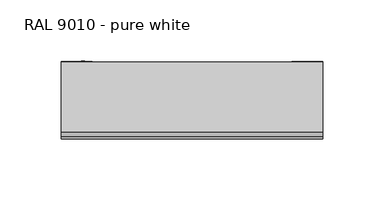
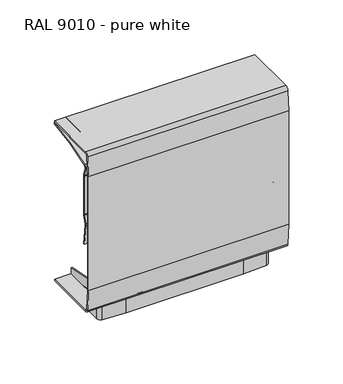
"""IFC4 building model written with IfcOpenShell, lengths in millimetres: cable carrier fitting geometry, Electrical_Installations_Hager_GBD-T-Piece-Curved : RAL 9010 - pure white."""

from ifc_helpers import new_model, si_unit, point, frame, frame_2d, origin, place, context, project, spatial, polyline, circle_curve, trimmed, segment, composite_curve, outline, extrude, source, transform, mapped, element, save
from ifc_brep_helpers import plane_surface, cylinder_surface, revolved_surface, advanced_brep


def ral_9010_pure_white_77e8784b(model_context):
    return source(origin(), model_context, "Body", "SolidModel", [
        extrude(outline(composite_curve([segment(trimmed(circle_curve(frame_2d((125.4567542, 53.884668)), 216.1549456), [point((-88.8940479, 26.0154353))], [point((-76.2372438, -23.8487975))], True, "CARTESIAN"), True, "CONTINUOUS"), segment(trimmed(circle_curve(frame_2d((-72.9488978, -22.5814592)), 3.5241121), [point((-76.2372438, -23.8487975))], [point((-71.8598873, -25.933089))], True, "CARTESIAN"), True, "CONTINUOUS"), segment(polyline([(-71.8598873, -25.933089), (-63.5928843, -23.2469769)]), True, "CONTINUOUS"), segment(trimmed(circle_curve(frame_2d((-62.3456501, -27.085569)), 4.0361346), [point((-63.5928843, -23.2469769))], [point((-62.3456501, -23.0494344))], False, "CARTESIAN"), True, "CONTINUOUS"), segment(polyline([(-62.3456501, -23.0494344), (-49.1940479, -23.0494344), (-49.1940479, -24.8494466)]), True, "CONTINUOUS"), segment(trimmed(circle_curve(frame_2d((-49.1785266, -34.7494344)), 9.9), [point((-49.1940479, -24.8494466))], [point((-52.2377949, -25.3339749))], True, "CARTESIAN"), True, "CONTINUOUS"), segment(polyline([(-52.2377949, -25.3339749), (-59.9970362, -27.8551052)]), True, "CONTINUOUS"), segment(trimmed(circle_curve(frame_2d((-63.1181078, -18.2494344)), 10.1), [point((-59.9970362, -27.8551052))], [point((-63.1181078, -28.3494344))], False, "CARTESIAN"), True, "CONTINUOUS"), segment(polyline([(-63.1181078, -28.3494344), (-64.7961909, -28.3494344)]), True, "CONTINUOUS"), segment(trimmed(circle_curve(frame_2d((-64.7961909, 71.6594911)), 100.0089255), [point((-64.7961909, -28.3494344))], [point((-86.4619058, -25.9744271))], False, "CARTESIAN"), True, "CONTINUOUS"), segment(trimmed(circle_curve(frame_2d((-85.7892984, -22.9434033)), 3.1047554), [point((-86.4619058, -25.9744271))], [point((-88.8940479, -22.9494344))], False, "CARTESIAN"), True, "CONTINUOUS"), segment(polyline([(-88.8940479, -22.9494344), (-88.8940479, 26.0154353)]), True, "CONTINUOUS")], self_intersect=False)), frame((0.0, 0.0, -95.7146752), z_axis=(0.0, 0.0, 1.0), x_axis=(1.0, 0.0, 0.0)), (0.0, 0.0, 1.0), 2.5189471),
        extrude(outline(composite_curve([segment(trimmed(circle_curve(frame_2d((-24.065426, -34.1134519)), 9.9), [point((-21.0061577, -24.6979923))], [point((-24.2565479, -24.2152969))], True, "CARTESIAN"), True, "CONTINUOUS"), segment(polyline([(-24.2565479, -24.2152969), (-24.2565479, -23.0494344), (-18.5077337, -23.0494344)]), True, "CONTINUOUS"), segment(trimmed(circle_curve(frame_2d((-18.5077337, -26.058164)), 3.0087296), [point((-18.5077337, -23.0494344))], [point((-17.5779851, -23.1966921))], False, "CARTESIAN"), True, "CONTINUOUS"), segment(polyline([(-17.5779851, -23.1966921), (-9.4759936, -25.8291887)]), True, "CONTINUOUS"), segment(trimmed(circle_curve(frame_2d((-8.1612952, -21.7829633)), 4.2544532), [point((-9.4759936, -25.8291887))], [point((-7.8063067, -26.0225806))], True, "CARTESIAN"), True, "CONTINUOUS"), segment(trimmed(circle_curve(frame_2d((-23.172832, 211.2398376)), 237.7595113), [point((-7.8063067, -26.0225806))], [point((15.276584, -23.3901426))], True, "CARTESIAN"), True, "CONTINUOUS"), segment(trimmed(circle_curve(frame_2d((9.8841599, -19.5646179)), 6.6115715), [point((15.276584, -23.3901426))], [point((11.1999265, -26.0439416))], False, "CARTESIAN"), True, "CONTINUOUS"), segment(trimmed(circle_curve(frame_2d((-8.6288951, 71.6005389)), 99.6374766), [point((11.1999265, -26.0439416))], [point((-8.654405, -28.0369344))], False, "CARTESIAN"), True, "CONTINUOUS"), segment(trimmed(circle_curve(frame_2d((-8.6508881, -14.3006806)), 13.7362542), [point((-8.654405, -28.0369344))], [point((-13.7469656, -27.0566468))], False, "CARTESIAN"), True, "CONTINUOUS"), segment(polyline([(-13.7469656, -27.0566468), (-21.0061577, -24.6979923)]), True, "CONTINUOUS")], self_intersect=False)), frame((0.0, 0.0, -95.7146752), z_axis=(0.0, 0.0, 1.0), x_axis=(1.0, 0.0, 0.0)), (0.0, 0.0, 1.0), 2.5189471),
        extrude(outline(composite_curve([segment(trimmed(circle_curve(frame_2d((125.6976818, 53.9483074)), 215.0549456), [point((-87.5394944, 26.0460443))], [point((-74.9699071, -23.3895771))], True, "CARTESIAN"), True, "CONTINUOUS"), segment(trimmed(circle_curve(frame_2d((-72.7079701, -22.5178198)), 2.4241121), [point((-74.9699071, -23.3895771))], [point((-71.9588783, -24.8232874))], True, "CARTESIAN"), True, "CONTINUOUS"), segment(polyline([(-71.9588783, -24.8232874), (-63.8877372, -22.2008147)]), True, "CONTINUOUS"), segment(trimmed(circle_curve(frame_2d((-62.3005843, -27.085569)), 5.1361346), [point((-63.8877372, -22.2008147))], [point((-62.3005843, -21.9494344))], False, "CARTESIAN"), True, "CONTINUOUS"), segment(polyline([(-62.3005843, -21.9494344), (-18.2253021, -21.9494344)]), True, "CONTINUOUS"), segment(trimmed(circle_curve(frame_2d((-18.2253021, -26.058164)), 4.1087296), [point((-18.2253021, -21.9494344))], [point((-16.9556348, -22.1505299))], False, "CARTESIAN"), True, "CONTINUOUS"), segment(polyline([(-16.9556348, -22.1505299), (-8.8536433, -24.7830266)]), True, "CONTINUOUS"), segment(trimmed(circle_curve(frame_2d((-7.8788637, -21.7829633)), 3.1544532), [point((-8.8536433, -24.7830266))], [point((-7.6060817, -24.9255999))], True, "CARTESIAN"), True, "CONTINUOUS"), segment(trimmed(circle_curve(frame_2d((-22.8904005, 211.2398376)), 236.6595113), [point((-7.6060817, -24.9255999))], [point((15.3821337, -22.3044567))], True, "CARTESIAN"), True, "CONTINUOUS"), segment(polyline([(15.3821337, -22.3044567), (15.3821337, -23.4190602)]), True, "CONTINUOUS"), segment(trimmed(circle_curve(frame_2d((-22.8904005, 211.2398376)), 237.7595113), [point((15.3821337, -23.4190602))], [point((-7.5238751, -26.0225806))], False, "CARTESIAN"), True, "CONTINUOUS"), segment(trimmed(circle_curve(frame_2d((-7.8788637, -21.7829633)), 4.2544532), [point((-7.5238751, -26.0225806))], [point((-9.193562, -25.8291887))], False, "CARTESIAN"), True, "CONTINUOUS"), segment(polyline([(-9.193562, -25.8291887), (-17.2955535, -23.1966921)]), True, "CONTINUOUS"), segment(trimmed(circle_curve(frame_2d((-18.2253021, -26.058164)), 3.0087296), [point((-17.2955535, -23.1966921))], [point((-18.2253021, -23.0494344))], True, "CARTESIAN"), True, "CONTINUOUS"), segment(polyline([(-18.2253021, -23.0494344), (-62.4055647, -23.0494344)]), True, "CONTINUOUS"), segment(trimmed(circle_curve(frame_2d((-62.4055647, -27.085569)), 4.0361346), [point((-62.4055647, -23.0494344))], [point((-63.6527989, -23.2469769))], True, "CARTESIAN"), True, "CONTINUOUS"), segment(polyline([(-63.6527989, -23.2469769), (-71.7239401, -25.8694496)]), True, "CONTINUOUS"), segment(trimmed(circle_curve(frame_2d((-72.8129506, -22.5178198)), 3.5241121), [point((-71.7239401, -25.8694496))], [point((-76.1012966, -23.7851582))], False, "CARTESIAN"), True, "CONTINUOUS"), segment(trimmed(circle_curve(frame_2d((125.5927014, 53.9483074)), 216.1549456), [point((-76.1012966, -23.7851582))], [point((-88.7538036, 26.0460443))], False, "CARTESIAN"), True, "CONTINUOUS"), segment(polyline([(-88.7538036, 26.0460443), (-87.5394944, 26.0460443)]), True, "CONTINUOUS")], self_intersect=False)), frame((0.0, 0.0, -107.0), z_axis=(0.0, 0.0, 1.0), x_axis=(1.0, 0.0, 0.0)), (0.0, 0.0, 1.0), 25.265503),
        extrude(outline(composite_curve([segment(polyline([(-21.0121095, -24.6979923), (-13.7529174, -27.0566468)]), True, "CONTINUOUS"), segment(trimmed(circle_curve(frame_2d((-8.6568399, -14.3006806)), 13.7362542), [point((-13.7529174, -27.0566468))], [point((-8.6603567, -28.0369344))], True, "CARTESIAN"), True, "CONTINUOUS"), segment(trimmed(circle_curve(frame_2d((-8.6348469, 71.6005389)), 99.6374766), [point((-8.6603567, -28.0369344))], [point((11.1939748, -26.0439416))], True, "CARTESIAN"), True, "CONTINUOUS"), segment(trimmed(circle_curve(frame_2d((9.8782081, -19.5646179)), 6.6115715), [point((11.1939748, -26.0439416))], [point((16.0908939, -21.8263458))], True, "CARTESIAN"), True, "CONTINUOUS"), segment(trimmed(circle_curve(frame_2d((16.1602092, -22.5742838)), 0.7511431), [point((16.0908939, -21.8263458))], [point((16.90599, -22.4846906))], False, "CARTESIAN"), True, "CONTINUOUS"), segment(trimmed(circle_curve(frame_2d((12.4452347, -23.0205766)), 4.492829), [point((16.90599, -22.4846906))], [point((13.3096417, -27.4294667))], False, "CARTESIAN"), True, "CONTINUOUS"), segment(trimmed(circle_curve(frame_2d((-12.0636273, 101.9863714)), 131.8797253), [point((13.3096417, -27.4294667))], [point((-8.6603567, -29.8494344))], False, "CARTESIAN"), True, "CONTINUOUS"), segment(trimmed(circle_curve(frame_2d((-9.9379151, -17.0167462)), 12.896125), [point((-8.6603567, -29.8494344))], [point((-13.9230369, -29.28169))], False, "CARTESIAN"), True, "CONTINUOUS"), segment(polyline([(-13.9230369, -29.28169), (-21.6822782, -26.7605597)]), True, "CONTINUOUS"), segment(trimmed(circle_curve(frame_2d((-24.278021, -34.7494344)), 8.4), [point((-21.6822782, -26.7605597))], [point((-24.2624997, -26.3494487))], True, "CARTESIAN"), True, "CONTINUOUS"), segment(polyline([(-24.2624997, -26.3494487), (-24.2624997, -24.2152969)]), True, "CONTINUOUS"), segment(trimmed(circle_curve(frame_2d((-24.0713777, -34.1134519)), 9.9), [point((-24.2624997, -24.2152969))], [point((-21.0121095, -24.6979923))], False, "CARTESIAN"), True, "CONTINUOUS")], self_intersect=False)), frame((0.0, 0.0, -95.0228804), z_axis=(0.0, 0.0, 1.0), x_axis=(1.0, 0.0, 0.0)), (0.0, 0.0, 1.0), 1.0),
        extrude(outline(composite_curve([segment(trimmed(circle_curve(frame_2d((-49.1844784, -34.7494344)), 9.9), [point((-52.2437466, -25.3339749))], [point((-49.1999997, -24.8494466))], False, "CARTESIAN"), True, "CONTINUOUS"), segment(polyline([(-49.1999997, -24.8494466), (-49.1999997, -26.3715745)]), True, "CONTINUOUS"), segment(trimmed(circle_curve(frame_2d((-49.8094784, -34.7494344)), 8.4), [point((-49.1999997, -26.3715745))], [point((-52.4052211, -26.7605597))], True, "CARTESIAN"), True, "CONTINUOUS"), segment(polyline([(-52.4052211, -26.7605597), (-60.1644624, -29.28169)]), True, "CONTINUOUS"), segment(trimmed(circle_curve(frame_2d((-63.7490596, -18.2494344)), 11.6), [point((-60.1644624, -29.28169))], [point((-63.7490596, -29.8494344))], False, "CARTESIAN"), True, "CONTINUOUS"), segment(polyline([(-63.7490596, -29.8494344), (-64.8021426, -29.8494344)]), True, "CONTINUOUS"), segment(trimmed(circle_curve(frame_2d((-64.8021426, 71.9307221)), 101.7801565), [point((-64.8021426, -29.8494344))], [point((-86.794206, -27.4450768))], False, "CARTESIAN"), True, "CONTINUOUS"), segment(trimmed(circle_curve(frame_2d((-85.8003378, -22.9540726)), 4.5996622), [point((-86.794206, -27.4450768))], [point((-90.4, -22.9540726))], False, "CARTESIAN"), True, "CONTINUOUS"), segment(polyline([(-90.4, -22.9540726), (-90.4, 26.0460443), (-88.8999997, 26.0460443), (-88.8999997, -22.9494344)]), True, "CONTINUOUS"), segment(trimmed(circle_curve(frame_2d((-85.7952501, -22.9434033)), 3.1047554), [point((-88.8999997, -22.9494344))], [point((-86.4678576, -25.9744271))], True, "CARTESIAN"), True, "CONTINUOUS"), segment(trimmed(circle_curve(frame_2d((-64.8021426, 71.6594911)), 100.0089255), [point((-86.4678576, -25.9744271))], [point((-64.8021426, -28.3494344))], True, "CARTESIAN"), True, "CONTINUOUS"), segment(polyline([(-64.8021426, -28.3494344), (-63.1240596, -28.3494344)]), True, "CONTINUOUS"), segment(trimmed(circle_curve(frame_2d((-63.1240596, -18.2494344)), 10.1), [point((-63.1240596, -28.3494344))], [point((-60.0029879, -27.8551052))], True, "CARTESIAN"), True, "CONTINUOUS"), segment(polyline([(-60.0029879, -27.8551052), (-52.2437466, -25.3339749)]), True, "CONTINUOUS")], self_intersect=False)), frame((0.0, 0.0, -95.0228804), z_axis=(0.0, 0.0, 1.0), x_axis=(1.0, 0.0, 0.0)), (0.0, 0.0, 1.0), 1.0),
        extrude(outline(composite_curve([segment(trimmed(circle_curve(frame_2d((47.1435251, -125.9773684)), 216.1549456), [point((25.4509328, 89.0863243))], [point((-30.5899404, 75.7166296))], True, "CARTESIAN"), True, "CONTINUOUS"), segment(trimmed(circle_curve(frame_2d((-29.3226021, 72.4282836)), 3.5241121), [point((-30.5899404, 75.7166296))], [point((-32.6742319, 71.3392731))], True, "CARTESIAN"), True, "CONTINUOUS"), segment(polyline([(-32.6742319, 71.3392731), (-30.0517591, 63.2681319)]), True, "CONTINUOUS"), segment(trimmed(circle_curve(frame_2d((-33.8903513, 62.0208977)), 4.0361346), [point((-30.0517591, 63.2681319))], [point((-29.8542167, 62.0208977))], False, "CARTESIAN"), True, "CONTINUOUS"), segment(polyline([(-29.8542167, 62.0208977), (-29.8542167, 49.3863243), (-31.6542288, 49.3863243)]), True, "CONTINUOUS"), segment(trimmed(circle_curve(frame_2d((-41.5542167, 49.3708031)), 9.9), [point((-31.6542288, 49.3863243))], [point((-32.1387571, 52.4300713))], True, "CARTESIAN"), True, "CONTINUOUS"), segment(polyline([(-32.1387571, 52.4300713), (-34.6598875, 60.1893126)]), True, "CONTINUOUS"), segment(trimmed(circle_curve(frame_2d((-25.0542167, 63.3103842)), 10.1), [point((-34.6598875, 60.1893126))], [point((-35.1542167, 63.3103842))], False, "CARTESIAN"), True, "CONTINUOUS"), segment(polyline([(-35.1542167, 63.3103842), (-35.1542167, 64.9884673)]), True, "CONTINUOUS"), segment(trimmed(circle_curve(frame_2d((64.8547088, 64.9884673)), 100.0089255), [point((-35.1542167, 64.9884673))], [point((-32.7792093, 86.6541822))], False, "CARTESIAN"), True, "CONTINUOUS"), segment(trimmed(circle_curve(frame_2d((-29.7481855, 85.9815748)), 3.1047554), [point((-32.7792093, 86.6541822))], [point((-29.7542167, 89.0863243))], False, "CARTESIAN"), True, "CONTINUOUS"), segment(polyline([(-29.7542167, 89.0863243), (25.4509328, 89.0863243)]), True, "CONTINUOUS")], self_intersect=False)), frame((92.9132965, 0.0, 0.0), z_axis=(1.0, 0.0, 0.0), x_axis=(0.0, 1.0, 0.0)), (0.0, 0.0, 1.0), 2.5189471),
        extrude(outline(composite_curve([segment(trimmed(circle_curve(frame_2d((-40.9182341, 24.2577024)), 9.9), [point((-31.5027746, 21.1984341))], [point((-31.0200791, 24.4488243))], True, "CARTESIAN"), True, "CONTINUOUS"), segment(polyline([(-31.0200791, 24.4488243), (-29.8542167, 24.4488243), (-29.8542167, 18.7000101)]), True, "CONTINUOUS"), segment(trimmed(circle_curve(frame_2d((-32.8629463, 18.7000101)), 3.0087296), [point((-29.8542167, 18.7000101))], [point((-30.0014744, 17.7702615))], False, "CARTESIAN"), True, "CONTINUOUS"), segment(polyline([(-30.0014744, 17.7702615), (-32.633971, 9.66827)]), True, "CONTINUOUS"), segment(trimmed(circle_curve(frame_2d((-28.5877455, 8.3535717)), 4.2544532), [point((-32.633971, 9.66827))], [point((-32.8273629, 7.9985831))], True, "CARTESIAN"), True, "CONTINUOUS"), segment(trimmed(circle_curve(frame_2d((204.4350554, 23.3651085)), 237.7595113), [point((-32.8273629, 7.9985831))], [point((-30.1949249, -15.0843076))], True, "CARTESIAN"), True, "CONTINUOUS"), segment(trimmed(circle_curve(frame_2d((-26.3694002, -9.6918834)), 6.6115715), [point((-30.1949249, -15.0843076))], [point((-32.8487238, -11.0076501))], False, "CARTESIAN"), True, "CONTINUOUS"), segment(trimmed(circle_curve(frame_2d((64.7957567, 8.8211715)), 99.6374766), [point((-32.8487238, -11.0076501))], [point((-34.8417167, 8.8466814))], False, "CARTESIAN"), True, "CONTINUOUS"), segment(trimmed(circle_curve(frame_2d((-21.1054629, 8.8431645)), 13.7362542), [point((-34.8417167, 8.8466814))], [point((-33.8614291, 13.9392421))], False, "CARTESIAN"), True, "CONTINUOUS"), segment(polyline([(-33.8614291, 13.9392421), (-31.5027746, 21.1984341)]), True, "CONTINUOUS")], self_intersect=False)), frame((92.9132965, 0.0, 0.0), z_axis=(1.0, 0.0, 0.0), x_axis=(0.0, 1.0, 0.0)), (0.0, 0.0, 1.0), 2.5189471),
        extrude(outline(composite_curve([segment(trimmed(circle_curve(frame_2d((47.1435251, -126.0823488)), 215.0549456), [point((25.441262, 87.8747529))], [point((-30.1943593, 74.5852401))], True, "CARTESIAN"), True, "CONTINUOUS"), segment(trimmed(circle_curve(frame_2d((-29.3226021, 72.3233031)), 2.4241121), [point((-30.1943593, 74.5852401))], [point((-31.6280697, 71.5742113))], True, "CARTESIAN"), True, "CONTINUOUS"), segment(polyline([(-31.6280697, 71.5742113), (-29.005597, 63.5030702)]), True, "CONTINUOUS"), segment(trimmed(circle_curve(frame_2d((-33.8903513, 61.9159173)), 5.1361346), [point((-29.005597, 63.5030702))], [point((-28.7542167, 61.9159173))], False, "CARTESIAN"), True, "CONTINUOUS"), segment(polyline([(-28.7542167, 61.9159173), (-28.7542167, 18.7000101)]), True, "CONTINUOUS"), segment(trimmed(circle_curve(frame_2d((-32.8629463, 18.7000101)), 4.1087296), [point((-28.7542167, 18.7000101))], [point((-28.9553122, 17.4303428))], False, "CARTESIAN"), True, "CONTINUOUS"), segment(polyline([(-28.9553122, 17.4303428), (-31.5878088, 9.3283513)]), True, "CONTINUOUS"), segment(trimmed(circle_curve(frame_2d((-28.5877455, 8.3535717)), 3.1544532), [point((-31.5878088, 9.3283513))], [point((-31.7303822, 8.0807897))], True, "CARTESIAN"), True, "CONTINUOUS"), segment(trimmed(circle_curve(frame_2d((204.4350554, 23.3651085)), 236.6595113), [point((-31.7303822, 8.0807897))], [point((-29.109239, -14.9074257))], True, "CARTESIAN"), True, "CONTINUOUS"), segment(polyline([(-29.109239, -14.9074257), (-30.2238425, -14.9074257)]), True, "CONTINUOUS"), segment(trimmed(circle_curve(frame_2d((204.4350554, 23.3651085)), 237.7595113), [point((-30.2238425, -14.9074257))], [point((-32.8273629, 7.9985831))], False, "CARTESIAN"), True, "CONTINUOUS"), segment(trimmed(circle_curve(frame_2d((-28.5877455, 8.3535717)), 4.2544532), [point((-32.8273629, 7.9985831))], [point((-32.633971, 9.66827))], False, "CARTESIAN"), True, "CONTINUOUS"), segment(polyline([(-32.633971, 9.66827), (-30.0014744, 17.7702615)]), True, "CONTINUOUS"), segment(trimmed(circle_curve(frame_2d((-32.8629463, 18.7000101)), 3.0087296), [point((-30.0014744, 17.7702615))], [point((-29.8542167, 18.7000101))], True, "CARTESIAN"), True, "CONTINUOUS"), segment(polyline([(-29.8542167, 18.7000101), (-29.8542167, 62.0208977)]), True, "CONTINUOUS"), segment(trimmed(circle_curve(frame_2d((-33.8903513, 62.0208977)), 4.0361346), [point((-29.8542167, 62.0208977))], [point((-30.0517591, 63.2681319))], True, "CARTESIAN"), True, "CONTINUOUS"), segment(polyline([(-30.0517591, 63.2681319), (-32.6742319, 71.3392731)]), True, "CONTINUOUS"), segment(trimmed(circle_curve(frame_2d((-29.3226021, 72.4282836)), 3.5241121), [point((-32.6742319, 71.3392731))], [point((-30.5899404, 75.7166296))], False, "CARTESIAN"), True, "CONTINUOUS"), segment(trimmed(circle_curve(frame_2d((47.1435251, -125.9773684)), 216.1549456), [point((-30.5899404, 75.7166296))], [point((25.441262, 89.0853487))], False, "CARTESIAN"), True, "CONTINUOUS"), segment(polyline([(25.441262, 89.0853487), (25.441262, 87.8747529)]), True, "CONTINUOUS")], self_intersect=False)), frame((81.734497, 0.0, 0.0), z_axis=(1.0, 0.0, 0.0), x_axis=(0.0, 1.0, 0.0)), (0.0, 0.0, 1.0), 25.265503),
        extrude(outline(composite_curve([segment(polyline([(-31.5027746, 21.1984341), (-33.8614291, 13.9392421)]), True, "CONTINUOUS"), segment(trimmed(circle_curve(frame_2d((-21.1054629, 8.8431645)), 13.7362542), [point((-33.8614291, 13.9392421))], [point((-34.8417167, 8.8466814))], True, "CARTESIAN"), True, "CONTINUOUS"), segment(trimmed(circle_curve(frame_2d((64.7957567, 8.8211715)), 99.6374766), [point((-34.8417167, 8.8466814))], [point((-32.8487238, -11.0076501))], True, "CARTESIAN"), True, "CONTINUOUS"), segment(trimmed(circle_curve(frame_2d((-26.3694002, -9.6918834)), 6.6115715), [point((-32.8487238, -11.0076501))], [point((-28.6311281, -15.9045692))], True, "CARTESIAN"), True, "CONTINUOUS"), segment(trimmed(circle_curve(frame_2d((-29.3790661, -15.9738846)), 0.7511431), [point((-28.6311281, -15.9045692))], [point((-29.2894729, -16.7196653))], False, "CARTESIAN"), True, "CONTINUOUS"), segment(trimmed(circle_curve(frame_2d((-29.8253588, -12.25891)), 4.492829), [point((-29.2894729, -16.7196653))], [point((-34.234249, -13.123317))], False, "CARTESIAN"), True, "CONTINUOUS"), segment(trimmed(circle_curve(frame_2d((95.1815891, 12.249952)), 131.8797253), [point((-34.234249, -13.123317))], [point((-36.6542167, 8.8466814))], False, "CARTESIAN"), True, "CONTINUOUS"), segment(trimmed(circle_curve(frame_2d((-23.8215285, 10.1242398)), 12.896125), [point((-36.6542167, 8.8466814))], [point((-36.0864722, 14.1093616))], False, "CARTESIAN"), True, "CONTINUOUS"), segment(polyline([(-36.0864722, 14.1093616), (-33.5653419, 21.8686029)]), True, "CONTINUOUS"), segment(trimmed(circle_curve(frame_2d((-41.5542167, 24.4643456)), 8.4), [point((-33.5653419, 21.8686029))], [point((-33.154231, 24.4488243))], True, "CARTESIAN"), True, "CONTINUOUS"), segment(polyline([(-33.154231, 24.4488243), (-31.0200791, 24.4488243)]), True, "CONTINUOUS"), segment(trimmed(circle_curve(frame_2d((-40.9182341, 24.2577024)), 9.9), [point((-31.0200791, 24.4488243))], [point((-31.5027746, 21.1984341))], False, "CARTESIAN"), True, "CONTINUOUS")], self_intersect=False)), frame((93.734497, 0.0, 0.0), z_axis=(1.0, 0.0, 0.0), x_axis=(0.0, 1.0, 0.0)), (0.0, 0.0, 1.0), 1.0),
        extrude(outline(composite_curve([segment(trimmed(circle_curve(frame_2d((-41.5542167, 49.3708031)), 9.9), [point((-32.1387571, 52.4300713))], [point((-31.6542288, 49.3863243))], False, "CARTESIAN"), True, "CONTINUOUS"), segment(polyline([(-31.6542288, 49.3863243), (-33.1763568, 49.3863243)]), True, "CONTINUOUS"), segment(trimmed(circle_curve(frame_2d((-41.5542167, 49.9958031)), 8.4), [point((-33.1763568, 49.3863243))], [point((-33.5653419, 52.5915458))], True, "CARTESIAN"), True, "CONTINUOUS"), segment(polyline([(-33.5653419, 52.5915458), (-36.0864722, 60.3507871)]), True, "CONTINUOUS"), segment(trimmed(circle_curve(frame_2d((-25.0542167, 63.9353842)), 11.6), [point((-36.0864722, 60.3507871))], [point((-36.6542167, 63.9353842))], False, "CARTESIAN"), True, "CONTINUOUS"), segment(polyline([(-36.6542167, 63.9353842), (-36.6542167, 64.9884673)]), True, "CONTINUOUS"), segment(trimmed(circle_curve(frame_2d((65.1259399, 64.9884673)), 101.7801565), [point((-36.6542167, 64.9884673))], [point((-34.2498591, 86.9805307))], False, "CARTESIAN"), True, "CONTINUOUS"), segment(trimmed(circle_curve(frame_2d((-29.7588549, 85.9866625)), 4.5996622), [point((-34.2498591, 86.9805307))], [point((-29.7588549, 90.5863247))], False, "CARTESIAN"), True, "CONTINUOUS"), segment(polyline([(-29.7588549, 90.5863247), (25.4389677, 90.5863247), (25.4389677, 89.0863243), (-29.7542167, 89.0863243)]), True, "CONTINUOUS"), segment(trimmed(circle_curve(frame_2d((-29.7481855, 85.9815748)), 3.1047554), [point((-29.7542167, 89.0863243))], [point((-32.7792093, 86.6541822))], True, "CARTESIAN"), True, "CONTINUOUS"), segment(trimmed(circle_curve(frame_2d((64.8547088, 64.9884673)), 100.0089255), [point((-32.7792093, 86.6541822))], [point((-35.1542167, 64.9884673))], True, "CARTESIAN"), True, "CONTINUOUS"), segment(polyline([(-35.1542167, 64.9884673), (-35.1542167, 63.3103842)]), True, "CONTINUOUS"), segment(trimmed(circle_curve(frame_2d((-25.0542167, 63.3103842)), 10.1), [point((-35.1542167, 63.3103842))], [point((-34.6598875, 60.1893126))], True, "CARTESIAN"), True, "CONTINUOUS"), segment(polyline([(-34.6598875, 60.1893126), (-32.1387571, 52.4300713)]), True, "CONTINUOUS")], self_intersect=False)), frame((93.734497, 0.0, 0.0), z_axis=(1.0, 0.0, 0.0), x_axis=(0.0, 1.0, 0.0)), (0.0, 0.0, 1.0), 1.0),
        extrude(outline(composite_curve([segment(trimmed(circle_curve(frame_2d((47.1435251, -125.9773684)), 216.1549456), [point((25.4509328, 89.0863243))], [point((-30.5899404, 75.7166296))], True, "CARTESIAN"), True, "CONTINUOUS"), segment(trimmed(circle_curve(frame_2d((-29.3226021, 72.4282836)), 3.5241121), [point((-30.5899404, 75.7166296))], [point((-32.6742319, 71.3392731))], True, "CARTESIAN"), True, "CONTINUOUS"), segment(polyline([(-32.6742319, 71.3392731), (-30.0517591, 63.2681319)]), True, "CONTINUOUS"), segment(trimmed(circle_curve(frame_2d((-33.8903513, 62.0208977)), 4.0361346), [point((-30.0517591, 63.2681319))], [point((-29.8542167, 62.0208977))], False, "CARTESIAN"), True, "CONTINUOUS"), segment(polyline([(-29.8542167, 62.0208977), (-29.8542167, 49.3863243), (-31.6542288, 49.3863243)]), True, "CONTINUOUS"), segment(trimmed(circle_curve(frame_2d((-41.5542167, 49.3708031)), 9.9), [point((-31.6542288, 49.3863243))], [point((-32.1387571, 52.4300713))], True, "CARTESIAN"), True, "CONTINUOUS"), segment(polyline([(-32.1387571, 52.4300713), (-34.6598875, 60.1893126)]), True, "CONTINUOUS"), segment(trimmed(circle_curve(frame_2d((-25.0542167, 63.3103842)), 10.1), [point((-34.6598875, 60.1893126))], [point((-35.1542167, 63.3103842))], False, "CARTESIAN"), True, "CONTINUOUS"), segment(polyline([(-35.1542167, 63.3103842), (-35.1542167, 64.9884673)]), True, "CONTINUOUS"), segment(trimmed(circle_curve(frame_2d((64.8547088, 64.9884673)), 100.0089255), [point((-35.1542167, 64.9884673))], [point((-32.7792093, 86.6541822))], False, "CARTESIAN"), True, "CONTINUOUS"), segment(trimmed(circle_curve(frame_2d((-29.7481855, 85.9815748)), 3.1047554), [point((-32.7792093, 86.6541822))], [point((-29.7542167, 89.0863243))], False, "CARTESIAN"), True, "CONTINUOUS"), segment(polyline([(-29.7542167, 89.0863243), (25.4509328, 89.0863243)]), True, "CONTINUOUS")], self_intersect=False)), frame((-95.8212005, 0.0, 0.0), z_axis=(1.0, 0.0, 0.0), x_axis=(0.0, 1.0, 0.0)), (0.0, 0.0, 1.0), 2.5189471),
        extrude(outline(composite_curve([segment(trimmed(circle_curve(frame_2d((-40.9182341, 24.2577024)), 9.9), [point((-31.5027746, 21.1984341))], [point((-31.0200791, 24.4488243))], True, "CARTESIAN"), True, "CONTINUOUS"), segment(polyline([(-31.0200791, 24.4488243), (-29.8542167, 24.4488243), (-29.8542167, 18.7000101)]), True, "CONTINUOUS"), segment(trimmed(circle_curve(frame_2d((-32.8629463, 18.7000101)), 3.0087296), [point((-29.8542167, 18.7000101))], [point((-30.0014744, 17.7702615))], False, "CARTESIAN"), True, "CONTINUOUS"), segment(polyline([(-30.0014744, 17.7702615), (-32.633971, 9.66827)]), True, "CONTINUOUS"), segment(trimmed(circle_curve(frame_2d((-28.5877455, 8.3535717)), 4.2544532), [point((-32.633971, 9.66827))], [point((-32.8273629, 7.9985831))], True, "CARTESIAN"), True, "CONTINUOUS"), segment(trimmed(circle_curve(frame_2d((204.4350554, 23.3651085)), 237.7595113), [point((-32.8273629, 7.9985831))], [point((-30.1949249, -15.0843076))], True, "CARTESIAN"), True, "CONTINUOUS"), segment(trimmed(circle_curve(frame_2d((-26.3694002, -9.6918834)), 6.6115715), [point((-30.1949249, -15.0843076))], [point((-32.8487238, -11.0076501))], False, "CARTESIAN"), True, "CONTINUOUS"), segment(trimmed(circle_curve(frame_2d((64.7957567, 8.8211715)), 99.6374766), [point((-32.8487238, -11.0076501))], [point((-34.8417167, 8.8466814))], False, "CARTESIAN"), True, "CONTINUOUS"), segment(trimmed(circle_curve(frame_2d((-21.1054629, 8.8431645)), 13.7362542), [point((-34.8417167, 8.8466814))], [point((-33.8614291, 13.9392421))], False, "CARTESIAN"), True, "CONTINUOUS"), segment(polyline([(-33.8614291, 13.9392421), (-31.5027746, 21.1984341)]), True, "CONTINUOUS")], self_intersect=False)), frame((-95.8212005, 0.0, 0.0), z_axis=(1.0, 0.0, 0.0), x_axis=(0.0, 1.0, 0.0)), (0.0, 0.0, 1.0), 2.5189471),
        extrude(outline(composite_curve([segment(trimmed(circle_curve(frame_2d((47.1435251, -126.0823488)), 215.0549456), [point((25.441262, 87.8747529))], [point((-30.1943593, 74.5852401))], True, "CARTESIAN"), True, "CONTINUOUS"), segment(trimmed(circle_curve(frame_2d((-29.3226021, 72.3233031)), 2.4241121), [point((-30.1943593, 74.5852401))], [point((-31.6280697, 71.5742113))], True, "CARTESIAN"), True, "CONTINUOUS"), segment(polyline([(-31.6280697, 71.5742113), (-29.005597, 63.5030702)]), True, "CONTINUOUS"), segment(trimmed(circle_curve(frame_2d((-33.8903513, 61.9159173)), 5.1361346), [point((-29.005597, 63.5030702))], [point((-28.7542167, 61.9159173))], False, "CARTESIAN"), True, "CONTINUOUS"), segment(polyline([(-28.7542167, 61.9159173), (-28.7542167, 18.7000101)]), True, "CONTINUOUS"), segment(trimmed(circle_curve(frame_2d((-32.8629463, 18.7000101)), 4.1087296), [point((-28.7542167, 18.7000101))], [point((-28.9553122, 17.4303428))], False, "CARTESIAN"), True, "CONTINUOUS"), segment(polyline([(-28.9553122, 17.4303428), (-31.5878088, 9.3283513)]), True, "CONTINUOUS"), segment(trimmed(circle_curve(frame_2d((-28.5877455, 8.3535717)), 3.1544532), [point((-31.5878088, 9.3283513))], [point((-31.7303822, 8.0807897))], True, "CARTESIAN"), True, "CONTINUOUS"), segment(trimmed(circle_curve(frame_2d((204.4350554, 23.3651085)), 236.6595113), [point((-31.7303822, 8.0807897))], [point((-29.109239, -14.9074257))], True, "CARTESIAN"), True, "CONTINUOUS"), segment(polyline([(-29.109239, -14.9074257), (-30.2238425, -14.9074257)]), True, "CONTINUOUS"), segment(trimmed(circle_curve(frame_2d((204.4350554, 23.3651085)), 237.7595113), [point((-30.2238425, -14.9074257))], [point((-32.8273629, 7.9985831))], False, "CARTESIAN"), True, "CONTINUOUS"), segment(trimmed(circle_curve(frame_2d((-28.5877455, 8.3535717)), 4.2544532), [point((-32.8273629, 7.9985831))], [point((-32.633971, 9.66827))], False, "CARTESIAN"), True, "CONTINUOUS"), segment(polyline([(-32.633971, 9.66827), (-30.0014744, 17.7702615)]), True, "CONTINUOUS"), segment(trimmed(circle_curve(frame_2d((-32.8629463, 18.7000101)), 3.0087296), [point((-30.0014744, 17.7702615))], [point((-29.8542167, 18.7000101))], True, "CARTESIAN"), True, "CONTINUOUS"), segment(polyline([(-29.8542167, 18.7000101), (-29.8542167, 62.0208977)]), True, "CONTINUOUS"), segment(trimmed(circle_curve(frame_2d((-33.8903513, 62.0208977)), 4.0361346), [point((-29.8542167, 62.0208977))], [point((-30.0517591, 63.2681319))], True, "CARTESIAN"), True, "CONTINUOUS"), segment(polyline([(-30.0517591, 63.2681319), (-32.6742319, 71.3392731)]), True, "CONTINUOUS"), segment(trimmed(circle_curve(frame_2d((-29.3226021, 72.4282836)), 3.5241121), [point((-32.6742319, 71.3392731))], [point((-30.5899404, 75.7166296))], False, "CARTESIAN"), True, "CONTINUOUS"), segment(trimmed(circle_curve(frame_2d((47.1435251, -125.9773684)), 216.1549456), [point((-30.5899404, 75.7166296))], [point((25.441262, 89.0853487))], False, "CARTESIAN"), True, "CONTINUOUS"), segment(polyline([(25.441262, 89.0853487), (25.441262, 87.8747529)]), True, "CONTINUOUS")], self_intersect=False)), frame((-107.0, 0.0, 0.0), z_axis=(1.0, 0.0, 0.0), x_axis=(0.0, 1.0, 0.0)), (0.0, 0.0, 1.0), 25.265503),
        extrude(outline(composite_curve([segment(polyline([(-31.5027746, 21.1984341), (-33.8614291, 13.9392421)]), True, "CONTINUOUS"), segment(trimmed(circle_curve(frame_2d((-21.1054629, 8.8431645)), 13.7362542), [point((-33.8614291, 13.9392421))], [point((-34.8417167, 8.8466814))], True, "CARTESIAN"), True, "CONTINUOUS"), segment(trimmed(circle_curve(frame_2d((64.7957567, 8.8211715)), 99.6374766), [point((-34.8417167, 8.8466814))], [point((-32.8487238, -11.0076501))], True, "CARTESIAN"), True, "CONTINUOUS"), segment(trimmed(circle_curve(frame_2d((-26.3694002, -9.6918834)), 6.6115715), [point((-32.8487238, -11.0076501))], [point((-28.6311281, -15.9045692))], True, "CARTESIAN"), True, "CONTINUOUS"), segment(trimmed(circle_curve(frame_2d((-29.3790661, -15.9738846)), 0.7511431), [point((-28.6311281, -15.9045692))], [point((-29.2894729, -16.7196653))], False, "CARTESIAN"), True, "CONTINUOUS"), segment(trimmed(circle_curve(frame_2d((-29.8253588, -12.25891)), 4.492829), [point((-29.2894729, -16.7196653))], [point((-34.234249, -13.123317))], False, "CARTESIAN"), True, "CONTINUOUS"), segment(trimmed(circle_curve(frame_2d((95.1815891, 12.249952)), 131.8797253), [point((-34.234249, -13.123317))], [point((-36.6542167, 8.8466814))], False, "CARTESIAN"), True, "CONTINUOUS"), segment(trimmed(circle_curve(frame_2d((-23.8215285, 10.1242398)), 12.896125), [point((-36.6542167, 8.8466814))], [point((-36.0864722, 14.1093616))], False, "CARTESIAN"), True, "CONTINUOUS"), segment(polyline([(-36.0864722, 14.1093616), (-33.5653419, 21.8686029)]), True, "CONTINUOUS"), segment(trimmed(circle_curve(frame_2d((-41.5542167, 24.4643456)), 8.4), [point((-33.5653419, 21.8686029))], [point((-33.154231, 24.4488243))], True, "CARTESIAN"), True, "CONTINUOUS"), segment(polyline([(-33.154231, 24.4488243), (-31.0200791, 24.4488243)]), True, "CONTINUOUS"), segment(trimmed(circle_curve(frame_2d((-40.9182341, 24.2577024)), 9.9), [point((-31.0200791, 24.4488243))], [point((-31.5027746, 21.1984341))], False, "CARTESIAN"), True, "CONTINUOUS")], self_intersect=False)), frame((-95.0, 0.0, 0.0), z_axis=(1.0, 0.0, 0.0), x_axis=(0.0, 1.0, 0.0)), (0.0, 0.0, 1.0), 1.0),
        extrude(outline(composite_curve([segment(trimmed(circle_curve(frame_2d((-41.5542167, 49.3708031)), 9.9), [point((-32.1387571, 52.4300713))], [point((-31.6542288, 49.3863243))], False, "CARTESIAN"), True, "CONTINUOUS"), segment(polyline([(-31.6542288, 49.3863243), (-33.1763568, 49.3863243)]), True, "CONTINUOUS"), segment(trimmed(circle_curve(frame_2d((-41.5542167, 49.9958031)), 8.4), [point((-33.1763568, 49.3863243))], [point((-33.5653419, 52.5915458))], True, "CARTESIAN"), True, "CONTINUOUS"), segment(polyline([(-33.5653419, 52.5915458), (-36.0864722, 60.3507871)]), True, "CONTINUOUS"), segment(trimmed(circle_curve(frame_2d((-25.0542167, 63.9353842)), 11.6), [point((-36.0864722, 60.3507871))], [point((-36.6542167, 63.9353842))], False, "CARTESIAN"), True, "CONTINUOUS"), segment(polyline([(-36.6542167, 63.9353842), (-36.6542167, 64.9884673)]), True, "CONTINUOUS"), segment(trimmed(circle_curve(frame_2d((65.1259399, 64.9884673)), 101.7801565), [point((-36.6542167, 64.9884673))], [point((-34.2498591, 86.9805307))], False, "CARTESIAN"), True, "CONTINUOUS"), segment(trimmed(circle_curve(frame_2d((-29.7588549, 85.9866625)), 4.5996622), [point((-34.2498591, 86.9805307))], [point((-29.7588549, 90.5863247))], False, "CARTESIAN"), True, "CONTINUOUS"), segment(polyline([(-29.7588549, 90.5863247), (25.4389677, 90.5863247), (25.4389677, 89.0863243), (-29.7542167, 89.0863243)]), True, "CONTINUOUS"), segment(trimmed(circle_curve(frame_2d((-29.7481855, 85.9815748)), 3.1047554), [point((-29.7542167, 89.0863243))], [point((-32.7792093, 86.6541822))], True, "CARTESIAN"), True, "CONTINUOUS"), segment(trimmed(circle_curve(frame_2d((64.8547088, 64.9884673)), 100.0089255), [point((-32.7792093, 86.6541822))], [point((-35.1542167, 64.9884673))], True, "CARTESIAN"), True, "CONTINUOUS"), segment(polyline([(-35.1542167, 64.9884673), (-35.1542167, 63.3103842)]), True, "CONTINUOUS"), segment(trimmed(circle_curve(frame_2d((-25.0542167, 63.3103842)), 10.1), [point((-35.1542167, 63.3103842))], [point((-34.6598875, 60.1893126))], True, "CARTESIAN"), True, "CONTINUOUS"), segment(polyline([(-34.6598875, 60.1893126), (-32.1387571, 52.4300713)]), True, "CONTINUOUS")], self_intersect=False)), frame((-95.0, 0.0, 0.0), z_axis=(1.0, 0.0, 0.0), x_axis=(0.0, 1.0, 0.0)), (0.0, 0.0, 1.0), 1.0),
        advanced_brep(
        [(-107.0, 25.0, 91.2375), (-107.0, 25.0, 89.4948198), (-107.0, -32.0873797, 89.4948198), (-107.0, -34.5526515, 87.6593133), (-107.0, -36.1066001, 62.8507993), (-107.0, -36.1066001, -62.4340273), (-107.0, -34.6847645, -85.6464284), (-107.0, -32.120066, -87.5354183), (-107.0, 25.0, -87.5354183), (-107.0, 25.0, -89.2375), (-107.0, -32.2230375, -89.2375), (-107.0, -36.3629396, -85.9411212), (-107.0, -37.8057553, -62.4528111), (-107.0, -37.8057553, 66.0724524), (-107.0, -36.3359777, 87.6817826), (-107.0, -32.1449125, 91.2375), (107.0, 25.0, 91.2375), (107.0, -32.1449125, 91.2375), (107.0, -36.3359777, 87.6817826), (107.0, -37.8057553, 66.0724524), (107.0, -37.8057553, -62.4528111), (107.0, -36.3629396, -85.9411212), (107.0, -32.2230375, -89.2375), (107.0, 25.0, -89.2375), (107.0, 25.0, -87.5354183), (107.0, -32.120066, -87.5354183), (107.0, -34.6847645, -85.6464284), (107.0, -36.1066001, -62.4340273), (107.0, -36.1066001, 62.8507993), (107.0, -34.5526515, 87.6593133), (107.0, -32.0873797, 89.4948198), (107.0, 25.0, 89.4948198), (89.5354183, 25.0, -87.5354183), (89.5354183, -25.557566, -87.5354183), (87.6464284, -28.1222645, -87.5354183), (62.8438851, -29.6756557, -87.5354183), (-62.8438851, -29.6756557, -87.5354183), (-87.6464284, -28.1222645, -87.5354183), (-89.5354183, -25.557566, -87.5354183), (-89.5354183, 25.0, -87.5354183), (-89.5354183, 25.0, -107.0), (-91.2375, 25.0, -107.0), (-91.2375, 25.0, -89.2375), (91.2375, 25.0, -89.2375), (91.2375, 25.0, -107.0), (89.5354183, 25.0, -107.0), (-91.2375, -25.6605375, -89.2375), (-87.9411212, -29.8004396, -89.2375), (-62.8597846, -31.3756557, -89.2375), (62.8597846, -31.3756557, -89.2375), (87.9411212, -29.8004396, -89.2375), (91.2375, -25.6605375, -89.2375), (-89.5354183, -25.557566, -107.0), (-87.6464284, -28.1222645, -107.0), (-62.8438851, -29.6756557, -107.0), (62.8438851, -29.6756557, -107.0), (87.6464284, -28.1222645, -107.0), (89.5354183, -25.557566, -107.0), (91.2375, -25.6605375, -107.0), (87.9411212, -29.8004396, -107.0), (62.8597846, -31.3756557, -107.0), (-62.8597846, -31.3756557, -107.0), (-87.9411212, -29.8004396, -107.0), (-91.2375, -25.6605375, -107.0), (-89.5354183, -25.557566, -89.2375), (-87.6464284, -28.1222645, -89.2375), (-62.8438851, -29.6756557, -89.2375), (62.8438851, -29.6756557, -89.2375), (87.6464284, -28.1222645, -89.2375), (89.5354183, -25.557566, -89.2375), (87.6464284, -28.1222645, -88.3439065), (-87.6464284, -28.1222645, -88.3439065)],
        [
            (0, 1),
            (1, 2),
            (2, 3, circle_curve(frame((-107.0, -32.1543463, 87.0114542), z_axis=(1.0, 0.0, 0.0), x_axis=(0.0, 0.0, 1.0)), 2.4842683)),
            (3, 4, circle_curve(frame((-107.0, 247.4552449, 57.5420584), z_axis=(1.0, 0.0, 0.0), x_axis=(0.0, 0.0, 1.0)), 283.6115348)),
            (4, 5),
            (5, 6, circle_curve(frame((-107.0, 247.3904564, -56.718651), z_axis=(1.0, 0.0, 0.0), x_axis=(0.0, 0.0, 1.0)), 283.5546624)),
            (6, 7, circle_curve(frame((-107.0, -32.2230375, -84.9896717), z_axis=(1.0, 0.0, 0.0), x_axis=(0.0, 0.0, 1.0)), 2.5478283)),
            (7, 8),
            (8, 9),
            (9, 10),
            (10, 11, circle_curve(frame((-107.0, -32.2230375, -84.9896717), z_axis=(-1.0, 0.0, 0.0), x_axis=(0.0, 0.0, 1.0)), 4.2478283)),
            (11, 12, circle_curve(frame((-107.0, 247.3907071, -56.722525), z_axis=(-1.0, 0.0, 0.0), x_axis=(0.0, 0.0, 1.0)), 285.2540243)),
            (12, 13),
            (13, 14, circle_curve(frame((-107.0, 247.376839, 57.5301567), z_axis=(-1.0, 0.0, 0.0), x_axis=(0.0, 0.0, 1.0)), 285.3105027)),
            (14, 15, circle_curve(frame((-107.0, -32.1449125, 86.9896717), z_axis=(-1.0, 0.0, 0.0), x_axis=(0.0, 0.0, 1.0)), 4.2478283)),
            (15, 0),
            (16, 17),
            (17, 18, circle_curve(frame((107.0, -32.1449125, 86.9896717), z_axis=(1.0, 0.0, 0.0), x_axis=(0.0, 0.0, 1.0)), 4.2478283)),
            (18, 19, circle_curve(frame((107.0, 247.376839, 57.5301567), z_axis=(1.0, 0.0, 0.0), x_axis=(0.0, 0.0, 1.0)), 285.3105027)),
            (19, 20),
            (20, 21, circle_curve(frame((107.0, 247.3907071, -56.722525), z_axis=(1.0, 0.0, 0.0), x_axis=(0.0, 0.0, 1.0)), 285.2540243)),
            (21, 22, circle_curve(frame((107.0, -32.2230375, -84.9896717), z_axis=(1.0, 0.0, 0.0), x_axis=(0.0, 0.0, 1.0)), 4.2478283)),
            (22, 23),
            (23, 24),
            (24, 25),
            (25, 26, circle_curve(frame((107.0, -32.2230375, -84.9896717), z_axis=(-1.0, 0.0, 0.0), x_axis=(0.0, 0.0, 1.0)), 2.5478283)),
            (26, 27, circle_curve(frame((107.0, 247.3904564, -56.718651), z_axis=(-1.0, 0.0, 0.0), x_axis=(0.0, 0.0, 1.0)), 283.5546624)),
            (27, 28),
            (28, 29, circle_curve(frame((107.0, 247.4552449, 57.5420584), z_axis=(-1.0, 0.0, 0.0), x_axis=(0.0, 0.0, 1.0)), 283.6115348)),
            (29, 30, circle_curve(frame((107.0, -32.1543463, 87.0114542), z_axis=(-1.0, 0.0, 0.0), x_axis=(0.0, 0.0, 1.0)), 2.4842683)),
            (30, 31),
            (31, 16),
            (0, 16),
            (31, 1),
            (30, 2),
            (15, 17),
            (14, 18),
            (29, 3),
            (28, 4),
            (27, 5),
            (26, 6),
            (25, 7),
            (24, 32),
            (32, 33),
            (33, 34, circle_curve(frame((86.9896717, -25.6605375, -87.5354183), z_axis=(0.0, 0.0, -1.0), x_axis=(-1.0, 0.0, 0.0)), 2.5478283)),
            (34, 35, circle_curve(frame((57.5301566, 253.9512638, -87.5354183), z_axis=(0.0, 0.0, -1.0), x_axis=(-1.0, 0.0, 0.0)), 283.6766913)),
            (35, 36),
            (36, 37, circle_curve(frame((-57.5301566, 253.9512638, -87.5354183), z_axis=(0.0, 0.0, -1.0), x_axis=(-1.0, 0.0, 0.0)), 283.6766913)),
            (37, 38, circle_curve(frame((-86.9896717, -25.6605375, -87.5354183), z_axis=(0.0, 0.0, -1.0), x_axis=(-1.0, 0.0, 0.0)), 2.5478283)),
            (38, 39),
            (39, 8),
            (39, 40),
            (40, 41),
            (41, 42),
            (42, 9),
            (23, 43),
            (43, 44),
            (44, 45),
            (45, 32),
            (42, 46),
            (46, 47, circle_curve(frame((-86.9896717, -25.6605375, -89.2375), z_axis=(0.0, 0.0, 1.0), x_axis=(-1.0, 0.0, 0.0)), 4.2478283)),
            (47, 48, circle_curve(frame((-57.5301566, 253.9512638, -89.2375), z_axis=(0.0, 0.0, 1.0), x_axis=(-1.0, 0.0, 0.0)), 285.3766913)),
            (48, 49),
            (49, 50, circle_curve(frame((57.5301566, 253.9512638, -89.2375), z_axis=(0.0, 0.0, 1.0), x_axis=(-1.0, 0.0, 0.0)), 285.3766913)),
            (50, 51, circle_curve(frame((86.9896717, -25.6605375, -89.2375), z_axis=(0.0, 0.0, 1.0), x_axis=(-1.0, 0.0, 0.0)), 4.2478283)),
            (51, 43),
            (22, 10),
            (21, 11),
            (20, 12),
            (19, 13),
            (40, 52),
            (52, 53, circle_curve(frame((-86.9896717, -25.6605375, -107.0), z_axis=(0.0, 0.0, 1.0), x_axis=(-1.0, 0.0, 0.0)), 2.5478283)),
            (53, 54, circle_curve(frame((-57.5301566, 253.9512638, -107.0), z_axis=(0.0, 0.0, 1.0), x_axis=(-1.0, 0.0, 0.0)), 283.6766913)),
            (54, 55),
            (55, 56, circle_curve(frame((57.5301566, 253.9512638, -107.0), z_axis=(0.0, 0.0, 1.0), x_axis=(-1.0, 0.0, 0.0)), 283.6766913)),
            (56, 57, circle_curve(frame((86.9896717, -25.6605375, -107.0), z_axis=(0.0, 0.0, 1.0), x_axis=(-1.0, 0.0, 0.0)), 2.5478283)),
            (57, 45),
            (44, 58),
            (58, 59, circle_curve(frame((86.9896717, -25.6605375, -107.0), z_axis=(0.0, 0.0, -1.0), x_axis=(-1.0, 0.0, 0.0)), 4.2478283)),
            (59, 60, circle_curve(frame((57.5301566, 253.9512638, -107.0), z_axis=(0.0, 0.0, -1.0), x_axis=(-1.0, 0.0, 0.0)), 285.3766913)),
            (60, 61),
            (61, 62, circle_curve(frame((-57.5301566, 253.9512638, -107.0), z_axis=(0.0, 0.0, -1.0), x_axis=(-1.0, 0.0, 0.0)), 285.3766913)),
            (62, 63, circle_curve(frame((-86.9896717, -25.6605375, -107.0), z_axis=(0.0, 0.0, -1.0), x_axis=(-1.0, 0.0, 0.0)), 4.2478283)),
            (63, 41),
            (52, 64),
            (64, 65, circle_curve(frame((-86.9896717, -25.6605375, -89.2375), z_axis=(0.0, 0.0, 1.0), x_axis=(-1.0, 0.0, 0.0)), 2.5478283)),
            (65, 53),
            (65, 66, circle_curve(frame((-57.5301566, 253.9512638, -89.2375), z_axis=(0.0, 0.0, 1.0), x_axis=(-1.0, 0.0, 0.0)), 283.6766913)),
            (66, 54),
            (55, 67),
            (67, 68, circle_curve(frame((57.5301566, 253.9512638, -89.2375), z_axis=(0.0, 0.0, 1.0), x_axis=(-1.0, 0.0, 0.0)), 283.6766913)),
            (68, 56),
            (68, 69, circle_curve(frame((86.9896717, -25.6605375, -89.2375), z_axis=(0.0, 0.0, 1.0), x_axis=(-1.0, 0.0, 0.0)), 2.5478283)),
            (69, 57),
            (51, 58),
            (50, 59),
            (49, 60),
            (48, 61),
            (47, 62),
            (46, 63),
            (33, 69),
            (68, 70),
            (70, 34),
            (67, 35),
            (66, 36),
            (65, 71),
            (71, 37),
            (64, 38),
        ],
        [
            plane_surface(frame((-107.0, 0.0, 0.0), z_axis=(-1.0, 0.0, 0.0), x_axis=(0.0, -1.0, 0.0))),
            plane_surface(frame((107.0, 0.0, 0.0), z_axis=(1.0, 0.0, 0.0), x_axis=(0.0, -1.0, 0.0))),
            plane_surface(frame((-107.0, 25.0, 91.2375), z_axis=(0.0, 1.0, 0.0), x_axis=(1.0, 0.0, 0.0))),
            plane_surface(frame((-107.0, 25.0, 89.4948198), z_axis=(0.0, 0.0, -1.0), x_axis=(1.0, 0.0, 0.0))),
            plane_surface(frame((-107.0, -32.1449125, 91.2375), z_axis=(0.0, 0.0, 1.0), x_axis=(1.0, 0.0, 0.0))),
            cylinder_surface(frame((-107.0, -32.1449125, 86.9896717), z_axis=(-1.0, 0.0, 0.0), x_axis=(0.0, 0.0, 1.0)), 4.2478283),
            revolved_surface(polyline([(107.0, -32.1543463, 89.4957225), (-107.0, -32.1543463, 89.4957225)]), (-107.0, -32.1543463, 87.0114542), (1.0, 0.0, 0.0)),
            revolved_surface(polyline([(107.0, 247.4552449, 341.15359320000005), (-107.0, 247.4552449, 341.15359320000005)]), (-107.0, 247.4552449, 57.5420584), (1.0, 0.0, 0.0)),
            plane_surface(frame((-107.0, -36.1066001, 62.8507993), z_axis=(0.0, 1.0, 0.0), x_axis=(1.0, 0.0, 0.0))),
            revolved_surface(polyline([(107.0, 247.3904564, 226.8360114), (-107.0, 247.3904564, 226.8360114)]), (-107.0, 247.3904564, -56.718651), (1.0, 0.0, 0.0)),
            revolved_surface(polyline([(107.0, -32.2230375, -82.4418434), (-107.0, -32.2230375, -82.4418434)]), (-107.0, -32.2230375, -84.9896717), (1.0, 0.0, 0.0)),
            plane_surface(frame((-107.0, -32.120066, -87.5354183), z_axis=(0.0, 0.0, 1.0), x_axis=(1.0, 0.0, 0.0))),
            plane_surface(frame((-107.0, 25.0, -87.5354183), z_axis=(0.0, 1.0, 0.0), x_axis=(1.0, 0.0, 0.0))),
            plane_surface(frame((-107.0, 25.0, -89.2375), z_axis=(0.0, 0.0, -1.0), x_axis=(1.0, 0.0, 0.0))),
            cylinder_surface(frame((-107.0, -32.2230375, -84.9896717), z_axis=(-1.0, 0.0, 0.0), x_axis=(0.0, 0.0, 1.0)), 4.2478283),
            cylinder_surface(frame((-107.0, 247.3907071, -56.722525), z_axis=(-1.0, 0.0, 0.0), x_axis=(0.0, 0.0, 1.0)), 285.2540243),
            plane_surface(frame((-107.0, -37.8057553, -62.4528111), z_axis=(0.0, -1.0, 0.0), x_axis=(1.0, 0.0, 0.0))),
            cylinder_surface(frame((-107.0, 247.376839, 57.5301567), z_axis=(-1.0, 0.0, 0.0), x_axis=(0.0, 0.0, 1.0)), 285.3105027),
            plane_surface(frame((0.0, 0.0, -107.0), z_axis=(0.0, 0.0, -1.0), x_axis=(0.0, -1.0, 0.0))),
            revolved_surface(polyline([(-89.53750000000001, -25.6605375, -89.2375), (-89.53750000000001, -25.6605375, -107.0)]), (-86.9896717, -25.6605375, -107.0), (0.0, 0.0, 1.0)),
            revolved_surface(polyline([(-341.2068479, 253.9512638, -89.2375), (-341.2068479, 253.9512638, -107.0)]), (-57.5301566, 253.9512638, -107.0), (0.0, 0.0, 1.0)),
            revolved_surface(polyline([(-226.14653470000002, 253.9512638, -89.2375), (-226.14653470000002, 253.9512638, -107.0)]), (57.5301566, 253.9512638, -107.0), (0.0, 0.0, 1.0)),
            revolved_surface(polyline([(84.4418434, -25.6605375, -89.2375), (84.4418434, -25.6605375, -107.0)]), (86.9896717, -25.6605375, -107.0), (0.0, 0.0, 1.0)),
            plane_surface(frame((91.2375, 25.0753741, -107.0), z_axis=(1.0, 0.0, 0.0), x_axis=(0.0, 0.0, 1.0))),
            cylinder_surface(frame((86.9896717, -25.6605375, -107.0), z_axis=(0.0, 0.0, -1.0), x_axis=(-1.0, 0.0, 0.0)), 4.2478283),
            cylinder_surface(frame((57.5301566, 253.9512638, -107.0), z_axis=(0.0, 0.0, -1.0), x_axis=(-1.0, 0.0, 0.0)), 285.3766913),
            plane_surface(frame((62.8597846, -31.3756557, -107.0), z_axis=(0.0, -1.0, 0.0), x_axis=(0.0, 0.0, 1.0))),
            cylinder_surface(frame((-57.5301566, 253.9512638, -107.0), z_axis=(0.0, 0.0, -1.0), x_axis=(-1.0, 0.0, 0.0)), 285.3766913),
            cylinder_surface(frame((-86.9896717, -25.6605375, -107.0), z_axis=(0.0, 0.0, -1.0), x_axis=(-1.0, 0.0, 0.0)), 4.2478283),
            plane_surface(frame((-91.2375, -25.6605375, -107.0), z_axis=(-1.0, 0.0, 0.0), x_axis=(0.0, 0.0, 1.0))),
            revolved_surface(polyline([(84.4418434, -25.6605375, -89.2375), (84.4418434, -25.6605375, -87.5354183)]), (86.9896717, -25.6605375, -92.3686105), (0.0, 0.0, -1.0)),
            revolved_surface(polyline([(-226.14653470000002, 253.9512638, -89.2375), (-226.14653470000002, 253.9512638, -87.5354183)]), (57.5301566, 253.9512638, -92.3686105), (0.0, 0.0, -1.0)),
            plane_surface(frame((62.8438851, -29.6756557, -92.3686105), z_axis=(0.0, 1.0, 0.0), x_axis=(0.0, 0.0, 1.0))),
            revolved_surface(polyline([(-341.2068479, 253.9512638, -89.2375), (-341.2068479, 253.9512638, -87.5354183)]), (-57.5301566, 253.9512638, -92.3686105), (0.0, 0.0, -1.0)),
            revolved_surface(polyline([(-89.53750000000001, -25.6605375, -89.2375), (-89.53750000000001, -25.6605375, -87.5354183)]), (-86.9896717, -25.6605375, -92.3686105), (0.0, 0.0, -1.0)),
            plane_surface(frame((-89.5354183, -25.557566, -92.3686105), z_axis=(1.0, 0.0, 0.0), x_axis=(0.0, 0.0, 1.0))),
            plane_surface(frame((89.5354183, 25.0753741, -92.3686105), z_axis=(-1.0, 0.0, 0.0), x_axis=(0.0, 0.0, 1.0))),
        ],
        [
            (0, [[1, 2, 3, 4, 5, 6, 7, 8, 9, 10, 11, 12, 13, 14, 15, 16]]),
            (1, [[17, 18, 19, 20, 21, 22, 23, 24, 25, 26, 27, 28, 29, 30, 31, 32]]),
            (2, [[-1, 33, -32, 34]]),
            (3, [[-2, -34, -31, 35]]),
            (4, [[-16, 36, -17, -33]]),
            (5, [[-15, 37, -18, -36]]),
            (6, [[-3, -35, -30, 38]]),
            (7, [[-4, -38, -29, 39]]),
            (8, [[-5, -39, -28, 40]]),
            (9, [[-6, -40, -27, 41]]),
            (10, [[-7, -41, -26, 42]]),
            (11, [[-8, -42, -25, 43, 44, 45, 46, 47, 48, 49, 50, 51]]),
            (12, [[-9, -51, 52, 53, 54, 55]]),
            (12, [[-24, 56, 57, 58, 59, -43]]),
            (13, [[-10, -55, 60, 61, 62, 63, 64, 65, 66, -56, -23, 67]]),
            (14, [[-11, -67, -22, 68]]),
            (15, [[-12, -68, -21, 69]]),
            (16, [[-13, -69, -20, 70]]),
            (17, [[-14, -70, -19, -37]]),
            (18, [[-53, 71, 72, 73, 74, 75, 76, 77, -58, 78, 79, 80, 81, 82, 83, 84]]),
            (19, [[-72, 85, 86, 87]]),
            (20, [[-73, -87, 88, 89]]),
            (21, [[-75, 90, 91, 92]]),
            (22, [[-76, -92, 93, 94]]),
            (23, [[-78, -57, -66, 95]]),
            (24, [[-79, -95, -65, 96]]),
            (25, [[-80, -96, -64, 97]]),
            (26, [[-81, -97, -63, 98]]),
            (27, [[-82, -98, -62, 99]]),
            (28, [[-83, -99, -61, 100]]),
            (29, [[-84, -100, -60, -54]]),
            (30, [[-45, 101, -93, 102, 103]]),
            (31, [[104, -46, -103, -102, -91]]),
            (32, [[-47, -104, -90, -74, -89, 105]]),
            (33, [[-48, -105, -88, 106, 107]]),
            (34, [[108, -49, -107, -106, -86]]),
            (35, [[-52, -50, -108, -85, -71]]),
            (36, [[-44, -59, -77, -94, -101]]),
        ],
    ),
    ])


if __name__ == "__main__":
    model = new_model("IFC4")
    model_context = context("Model", 3, world=origin())
    ifc_project = project(units=[si_unit("LENGTHUNIT", "METRE", prefix="MILLI")], contexts=[model_context])
    site = spatial("IfcSite", under=ifc_project)
    building = spatial("IfcBuilding", under=site)
    placement = place(None, origin())
    ral_9010_pure_white_shape = ral_9010_pure_white_77e8784b(model_context)
    element("IfcCableCarrierFitting", 1, ObjectType="Electrical_Installations_Hager_GBD-T-Piece-Curved : RAL 9010 - pure white", at=placement, inside=building, context=model_context, shape_type="MappedRepresentation", body=[
        mapped(ral_9010_pure_white_shape, transform((0.0, 0.0, 0.0), x_axis=(1.0, 0.0, 0.0), y_axis=(0.0, 1.0, 0.0), z_axis=(0.0, 0.0, 1.0))),
    ])
    save(model, "model.ifc")
